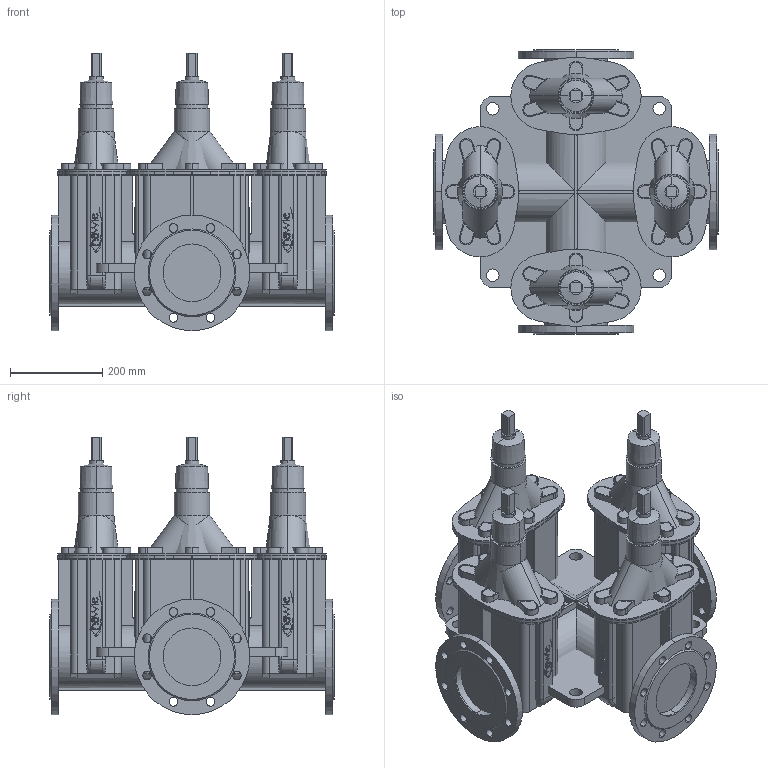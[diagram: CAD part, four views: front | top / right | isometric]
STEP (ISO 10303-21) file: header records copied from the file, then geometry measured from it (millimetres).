
FILE_DESCRIPTION(('STEP AP214'),'1');
FILE_NAME('S:/EK/USER/CAT6/3DHomepage_27-04-2012/neu_23-01-2013/4400E2/4400E2_PN16_DN125_4.STP','2013-02-22T08:20:31',(' '),(' '),'Spatial InterOp 3D',' ',' ');
FILE_SCHEMA(('automotive_design'));
Length unit declared in the file: millimetre
Products named in the file (202): 3D-Objekt
Bounding box: 615 x 615 x 600 mm (x, y, z)
Volume: 54313997.6 mm3; surface area: 4466361.9 mm2
Topology: 202 solids, 202 shells, 1874 faces, 4376 edges, 2914 vertices
Faces by surface type: plane 1018, cylinder 792, cone 32, bspline 16, torus 16
Entity records: 74076 total; most frequent: DIRECTION 10236, CARTESIAN_POINT 9638, ORIENTED_EDGE 8752, EDGE_CURVE 4376, AXIS2_PLACEMENT_3D 3800, VERTEX_POINT 2914, LINE 2636, VECTOR 2636
